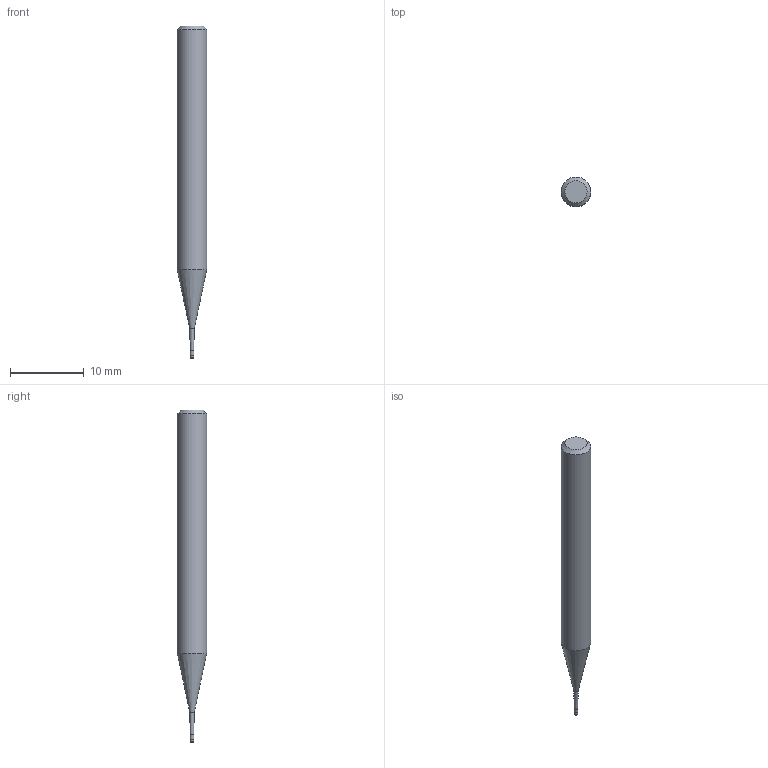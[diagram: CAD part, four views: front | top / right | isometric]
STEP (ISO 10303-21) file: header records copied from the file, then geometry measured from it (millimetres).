
FILE_DESCRIPTION((''),'2;1');
FILE_NAME('C:\Users\nsx150\AppData\Local\Temp\Mastercam 2021\YKS1SUSFZB\TEMP.step','2025-06-23T14:03:35',(''),(''),'STEP Write','Mastercam 2021 ... CNC Software, Inc.','');
FILE_SCHEMA(('AUTOMOTIVE_DESIGN'));
Length unit declared in the file: millimetre
Products named in the file (1): None
Bounding box: 4 x 4 x 45 mm (x, y, z)
Volume: 453.7 mm3; surface area: 489.8 mm2
Topology: 2 solids, 2 shells, 11 faces, 16 edges, 9 vertices
Faces by surface type: plane 4, cylinder 3, cone 3, torus 1
Full cylindrical faces by diameter (mm): 0.48 x1, 0.5 x1, 4 x1
Entity records: 253 total; most frequent: DIRECTION 44, CARTESIAN_POINT 31, AXIS2_PLACEMENT_3D 22, ORIENTED_EDGE 18, EDGE_LOOP 18, STYLED_ITEM 14, ADVANCED_FACE 11, FACE_BOUND 11
